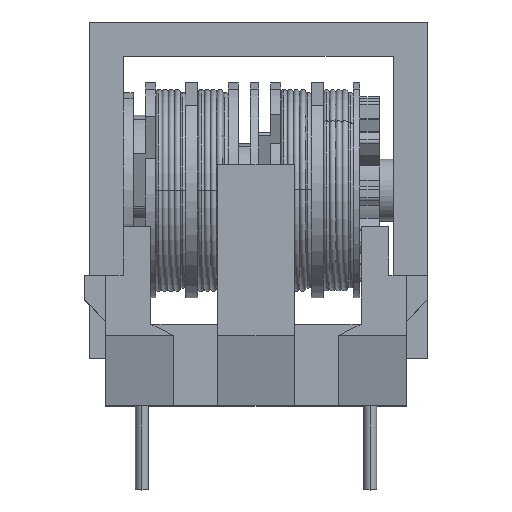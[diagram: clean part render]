
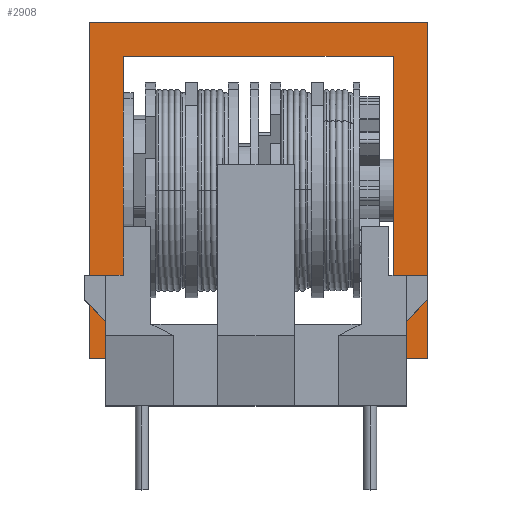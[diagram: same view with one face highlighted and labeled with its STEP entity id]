
A CAD part, top view. The second image highlights one B-rep face of the part: STEP entity #2908.
In plain terms, the highlighted planar face has unit normal (0, 0, 1).
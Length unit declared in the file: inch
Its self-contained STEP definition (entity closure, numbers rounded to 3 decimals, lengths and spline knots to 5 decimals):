
#230 = CARTESIAN_POINT ( 'NONE',  ( 0.19049, 0.39122, -0.11377 ) ) ;
#299 = VERTEX_POINT ( 'NONE', #13308 ) ;
#313 = VERTEX_POINT ( 'NONE', #4743 ) ;
#606 = VERTEX_POINT ( 'NONE', #1211 ) ;
#691 = DIRECTION ( 'NONE',  ( -1., 0., 0. ) ) ;
#730 = VECTOR ( 'NONE', #9343, 39.37008 ) ;
#876 = EDGE_CURVE ( 'NONE', #606, #1650, #15480, .T. ) ;
#900 = EDGE_CURVE ( 'NONE', #1269, #606, #10233, .T. ) ;
#919 = DIRECTION ( 'NONE',  ( 1., 0., 0. ) ) ;
#1211 = CARTESIAN_POINT ( 'NONE',  ( -0.46109, 1.03886, -0.11377 ) ) ;
#1269 = VERTEX_POINT ( 'NONE', #1455 ) ;
#1403 = FACE_OUTER_BOUND ( 'NONE', #7979, .T. ) ;
#1455 = CARTESIAN_POINT ( 'NONE',  ( -0.46109, 0.39122, -0.11377 ) ) ;
#1650 = VERTEX_POINT ( 'NONE', #14274 ) ;
#1829 = CARTESIAN_POINT ( 'NONE',  ( -0.46109, 0.78984, -0.11377 ) ) ;
#2188 = CARTESIAN_POINT ( 'NONE',  ( 0.27316, 0.30854, -0.11377 ) ) ;
#2883 = DIRECTION ( 'NONE',  ( 0., -1., 0. ) ) ;
#2908 = ADVANCED_FACE ( 'NONE', ( #1403, #9546 ), #8281, .F. ) ;
#3195 = VERTEX_POINT ( 'NONE', #7498 ) ;
#3312 = EDGE_CURVE ( 'NONE', #299, #3195, #11303, .T. ) ;
#3749 = VECTOR ( 'NONE', #16471, 39.37008 ) ;
#3899 = CARTESIAN_POINT ( 'NONE',  ( -0.54377, 0.30854, -0.11377 ) ) ;
#4026 = EDGE_CURVE ( 'NONE', #11435, #1269, #14528, .T. ) ;
#4121 = LINE ( 'NONE', #3899, #6557 ) ;
#4231 = EDGE_CURVE ( 'NONE', #8928, #313, #16517, .T. ) ;
#4428 = LINE ( 'NONE', #15038, #730 ) ;
#4743 = CARTESIAN_POINT ( 'NONE',  ( -0.54377, 1.12154, -0.11377 ) ) ;
#5160 = ORIENTED_EDGE ( 'NONE', *, *, #4026, .T. ) ;
#5376 = ORIENTED_EDGE ( 'NONE', *, *, #16296, .T. ) ;
#5457 = VECTOR ( 'NONE', #919, 39.37008 ) ;
#6231 = VECTOR ( 'NONE', #11795, 39.37008 ) ;
#6498 = ORIENTED_EDGE ( 'NONE', *, *, #14990, .F. ) ;
#6557 = VECTOR ( 'NONE', #16324, 39.37008 ) ;
#6945 = CARTESIAN_POINT ( 'NONE',  ( -0.54377, 0.30854, -0.11377 ) ) ;
#7477 = CARTESIAN_POINT ( 'NONE',  ( -0.46109, 1.03886, -0.11377 ) ) ;
#7498 = CARTESIAN_POINT ( 'NONE',  ( 0.27316, 0.30854, -0.11377 ) ) ;
#7906 = ORIENTED_EDGE ( 'NONE', *, *, #876, .T. ) ;
#7979 = EDGE_LOOP ( 'NONE', ( #17337, #6498, #11231, #17389 ) ) ;
#8010 = DIRECTION ( 'NONE',  ( 0., 1., 0. ) ) ;
#8281 = PLANE ( 'NONE',  #11773 ) ;
#8928 = VERTEX_POINT ( 'NONE', #6945 ) ;
#9020 = CARTESIAN_POINT ( 'NONE',  ( -0.54377, 1.12154, -0.11377 ) ) ;
#9343 = DIRECTION ( 'NONE',  ( 0., -1., 0. ) ) ;
#9546 = FACE_BOUND ( 'NONE', #17345, .T. ) ;
#9895 = DIRECTION ( 'NONE',  ( 0., 0., -1. ) ) ;
#10233 = LINE ( 'NONE', #1829, #12211 ) ;
#11231 = ORIENTED_EDGE ( 'NONE', *, *, #4231, .F. ) ;
#11255 = CARTESIAN_POINT ( 'NONE',  ( -0.1353, 0.71504, -0.11377 ) ) ;
#11303 = LINE ( 'NONE', #2188, #6231 ) ;
#11435 = VERTEX_POINT ( 'NONE', #230 ) ;
#11509 = CARTESIAN_POINT ( 'NONE',  ( -0.46109, 0.39122, -0.11377 ) ) ;
#11516 = ORIENTED_EDGE ( 'NONE', *, *, #900, .T. ) ;
#11773 = AXIS2_PLACEMENT_3D ( 'NONE', #11255, #9895, #2883 ) ;
#11789 = VECTOR ( 'NONE', #17424, 39.37008 ) ;
#11795 = DIRECTION ( 'NONE',  ( 0., -1., 0. ) ) ;
#12074 = LINE ( 'NONE', #9020, #5457 ) ;
#12211 = VECTOR ( 'NONE', #8010, 39.37008 ) ;
#12780 = EDGE_CURVE ( 'NONE', #3195, #8928, #4121, .T. ) ;
#13308 = CARTESIAN_POINT ( 'NONE',  ( 0.27316, 1.12154, -0.11377 ) ) ;
#13872 = CARTESIAN_POINT ( 'NONE',  ( -0.54377, 0.30854, -0.11377 ) ) ;
#14274 = CARTESIAN_POINT ( 'NONE',  ( 0.19049, 1.03886, -0.11377 ) ) ;
#14528 = LINE ( 'NONE', #11509, #17444 ) ;
#14990 = EDGE_CURVE ( 'NONE', #313, #299, #12074, .T. ) ;
#15038 = CARTESIAN_POINT ( 'NONE',  ( 0.19049, 0.78984, -0.11377 ) ) ;
#15480 = LINE ( 'NONE', #7477, #11789 ) ;
#16296 = EDGE_CURVE ( 'NONE', #1650, #11435, #4428, .T. ) ;
#16324 = DIRECTION ( 'NONE',  ( -1., 0., 0. ) ) ;
#16471 = DIRECTION ( 'NONE',  ( 0., 1., 0. ) ) ;
#16517 = LINE ( 'NONE', #13872, #3749 ) ;
#17337 = ORIENTED_EDGE ( 'NONE', *, *, #3312, .F. ) ;
#17345 = EDGE_LOOP ( 'NONE', ( #5376, #5160, #11516, #7906 ) ) ;
#17389 = ORIENTED_EDGE ( 'NONE', *, *, #12780, .F. ) ;
#17424 = DIRECTION ( 'NONE',  ( 1., 0., 0. ) ) ;
#17444 = VECTOR ( 'NONE', #691, 39.37008 ) ;
